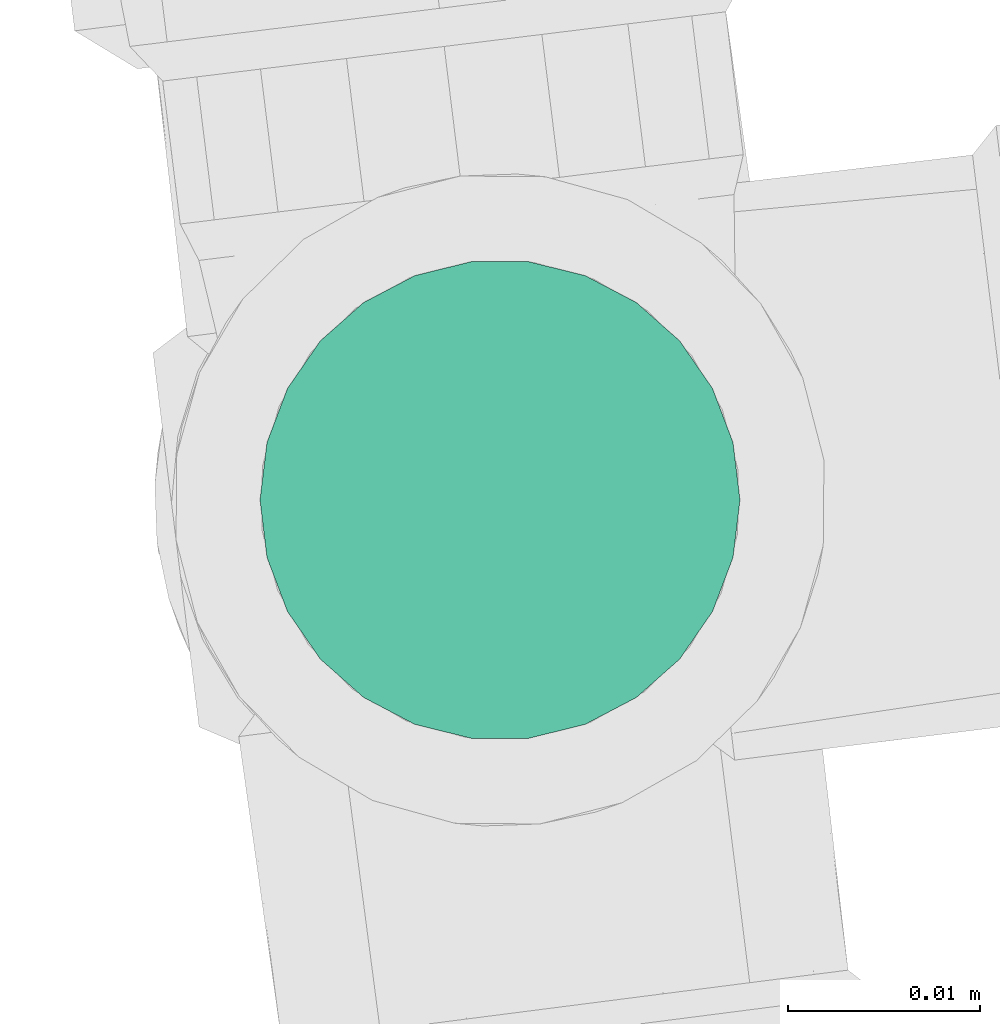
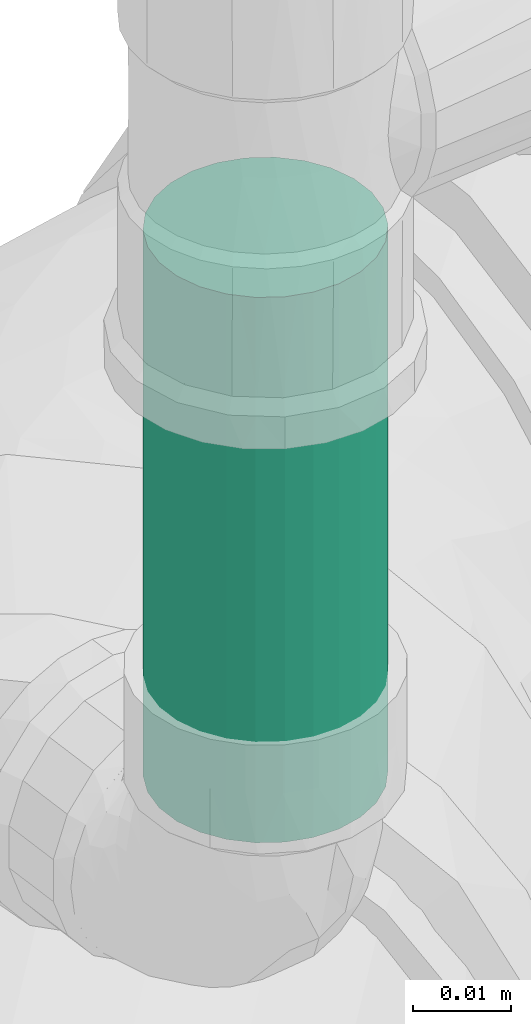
# One storey, part 60 of 97: 1 flow segment.
"""IFC2X3 building model written with IfcOpenShell, lengths in centimetres."""

from ifc_helpers import new_model, entity, si_unit, converted_unit, derived_unit, direction, frame, frame_2d, origin, place, context, subcontext, project, spatial, circle, extrude, type_object, element, save


model = new_model("IFC2X3")

# Units and contexts
model_context = context("Model", 3, precision=0.001, world=origin(), true_north=direction((6.12303176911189e-17, 1.0)))
body_context = subcontext(model_context, "Body", "Model", "MODEL_VIEW")
ifc_project = project(units=[si_unit("LENGTHUNIT", "METRE", prefix="CENTI"), si_unit("AREAUNIT", "SQUARE_METRE"), si_unit("VOLUMEUNIT", "CUBIC_METRE"), converted_unit("PLANEANGLEUNIT", "DEGREE", entity("IfcRatioMeasure", 0.0174532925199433), si_unit("PLANEANGLEUNIT", "RADIAN"), dimensions=[0, 0, 0, 0, 0, 0, 0]), si_unit("MASSUNIT", "GRAM", prefix="KILO"), derived_unit("MASSDENSITYUNIT", [(si_unit("MASSUNIT", "GRAM", prefix="KILO"), 1), (si_unit("LENGTHUNIT", "METRE"), -3)]), derived_unit("MOMENTOFINERTIAUNIT", [(si_unit("LENGTHUNIT", "METRE"), 4)]), si_unit("TIMEUNIT", "SECOND"), si_unit("FREQUENCYUNIT", "HERTZ"), si_unit("THERMODYNAMICTEMPERATUREUNIT", "DEGREE_CELSIUS"), derived_unit("THERMALTRANSMITTANCEUNIT", [(si_unit("MASSUNIT", "GRAM", prefix="KILO"), 1), (si_unit("THERMODYNAMICTEMPERATUREUNIT", "KELVIN"), -1), (si_unit("TIMEUNIT", "SECOND"), -3)]), derived_unit("VOLUMETRICFLOWRATEUNIT", [(si_unit("LENGTHUNIT", "METRE"), 3), (si_unit("TIMEUNIT", "SECOND"), -1)]), si_unit("ELECTRICCURRENTUNIT", "AMPERE"), si_unit("ELECTRICVOLTAGEUNIT", "VOLT"), si_unit("POWERUNIT", "WATT"), si_unit("FORCEUNIT", "NEWTON", prefix="KILO"), si_unit("ILLUMINANCEUNIT", "LUX"), si_unit("LUMINOUSFLUXUNIT", "LUMEN"), si_unit("LUMINOUSINTENSITYUNIT", "CANDELA"), derived_unit("USERDEFINED", [(si_unit("MASSUNIT", "GRAM", prefix="KILO"), -1), (si_unit("LENGTHUNIT", "METRE"), -2), (si_unit("TIMEUNIT", "SECOND"), 3), (si_unit("LUMINOUSFLUXUNIT", "LUMEN"), 1)]), derived_unit("LINEARVELOCITYUNIT", [(si_unit("LENGTHUNIT", "METRE"), 1), (si_unit("TIMEUNIT", "SECOND"), -1)]), si_unit("PRESSUREUNIT", "PASCAL"), derived_unit("USERDEFINED", [(si_unit("LENGTHUNIT", "METRE"), -2), (si_unit("MASSUNIT", "GRAM", prefix="KILO"), 1), (si_unit("TIMEUNIT", "SECOND"), -2)]), derived_unit("LINEARFORCEUNIT", [(si_unit("MASSUNIT", "GRAM", prefix="KILO"), 1), (si_unit("LENGTHUNIT", "METRE"), 1), (si_unit("TIMEUNIT", "SECOND"), -2), (si_unit("LENGTHUNIT", "METRE"), -1)]), derived_unit("PLANARFORCEUNIT", [(si_unit("MASSUNIT", "GRAM", prefix="KILO"), 1), (si_unit("LENGTHUNIT", "METRE"), 1), (si_unit("TIMEUNIT", "SECOND"), -2), (si_unit("LENGTHUNIT", "METRE"), -2)])], contexts=[model_context])

# Site, building, storey
site_placement = place(None, origin())
site = spatial("IfcSite", under=ifc_project, at=site_placement, Name="Default", CompositionType="ELEMENT")
building_placement = place(site_placement, origin())
building = spatial("IfcBuilding", under=site, at=building_placement, Name="HIDROSSANITÁRIO", CompositionType="ELEMENT")
storey_placement = place(building_placement, frame((0.0, 0.0, -260.0)))
storey = spatial("IfcBuildingStorey", under=building, at=storey_placement, Name="TÉRREO-HID", CompositionType="ELEMENT", Elevation=-260.0)

# Flow segment
pipe_segment_type = type_object("IfcPipeSegmentType", Name="Tipos de tubos:Tubo Marrom - Água Fria - Soldável", PredefinedType="NOTDEFINED")
flow_segment_placement = place(storey_placement, origin())
element("IfcFlowSegment", 1, at=flow_segment_placement, inside=storey, type_object=pipe_segment_type, Name="Tipos de tubos:Tubo Marrom - Água Fria - Soldável", ObjectType="Tipos de tubos:Tubo Marrom - Água Fria - Soldável", context=body_context, shape_type="SweptSolid", body=[
    extrude(circle(Radius=1.25, at=frame_2d((0.0, 4.33146851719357e-13), x_axis=(1.0, 0.0))), frame((-1799.2260408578, 2883.95602249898, 21.63)), (0.0, 0.0, 1.0), 6.78000000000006),
])

save(model, "model.ifc")
